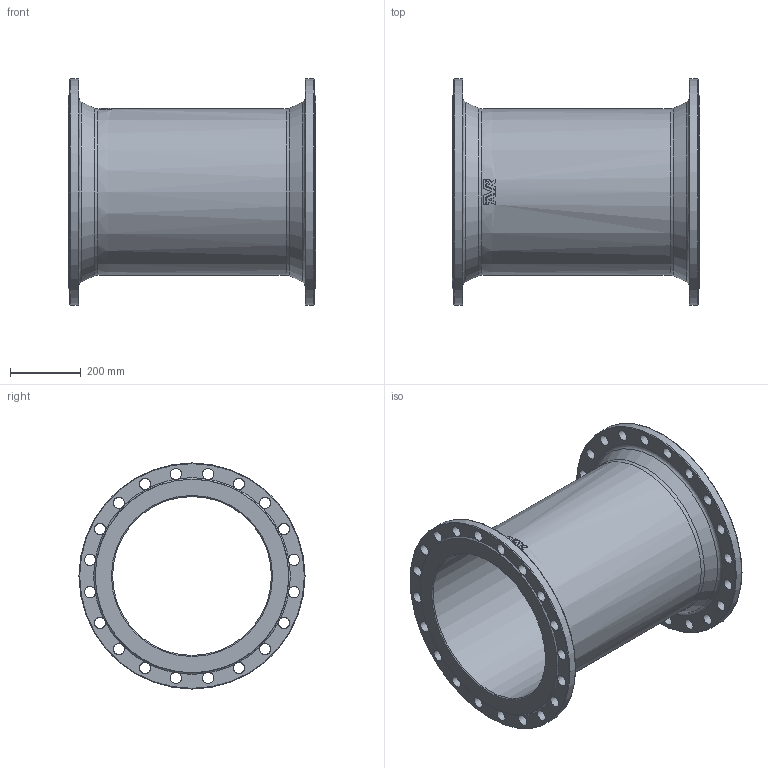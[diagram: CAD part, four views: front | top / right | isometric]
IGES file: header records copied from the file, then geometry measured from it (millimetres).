
Start section: SolidWorks IGES file using analytic representation for surfaces
Global section: file name: \\avksan2\techshare\PBM outline export from Enovia\O_712_5010_DN450_1X_REV01.igs; native system: SolidWorks 2019; preprocessor: SolidWorks 2019; author: pbm; date: 211203.112023; units: millimetre
Bounding box: 700 x 640 x 640 mm (x, y, z)
Surface area: 2643238.5 mm2 (no closed solid volume)
Topology: 0 solids, 0 shells, 105 faces, 692 edges, 633 vertices
Faces by surface type: revolution 62, bspline 43
